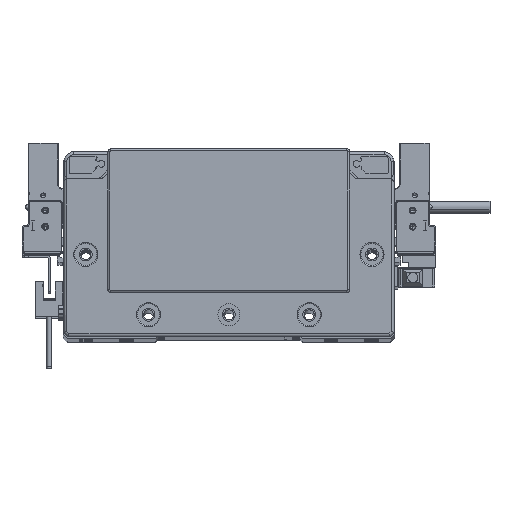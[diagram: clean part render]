
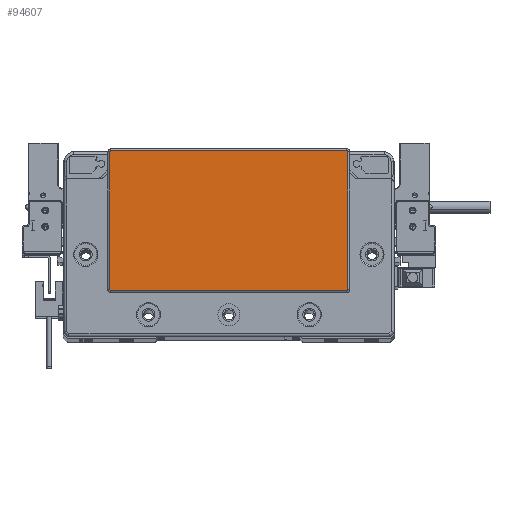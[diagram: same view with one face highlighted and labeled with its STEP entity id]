
A CAD part, top view. The second image highlights one B-rep face of the part: STEP entity #94607.
In plain terms, the highlighted planar face has unit normal (0, 0, 1) as drawn and (0, 0, -1) by its records, which use the part's own axes.
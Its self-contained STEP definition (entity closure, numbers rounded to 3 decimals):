
#270 = LINE ( 'NONE', #9130, #83441 ) ;
#2704 = DIRECTION ( 'NONE',  ( -1., 0., 0. ) ) ;
#2871 = AXIS2_PLACEMENT_3D ( 'NONE', #32860, #71422, #81776 ) ;
#3519 = LINE ( 'NONE', #45178, #89425 ) ;
#5821 = FACE_OUTER_BOUND ( 'NONE', #14637, .T. ) ;
#7203 = AXIS2_PLACEMENT_3D ( 'NONE', #62402, #39974, #38948 ) ;
#8072 = AXIS2_PLACEMENT_3D ( 'NONE', #18843, #24611, #2704 ) ;
#8214 = CARTESIAN_POINT ( 'NONE',  ( -59.25, 45.3, -2. ) ) ;
#9129 = EDGE_CURVE ( 'NONE', #9720, #43144, #74811, .T. ) ;
#9130 = CARTESIAN_POINT ( 'NONE',  ( 58.75, 45.8, -2. ) ) ;
#9720 = VERTEX_POINT ( 'NONE', #47020 ) ;
#12829 = CIRCLE ( 'NONE', #97653, 0.5 ) ;
#14637 = EDGE_LOOP ( 'NONE', ( #45961, #79188, #82193, #80307, #80741, #64395, #99784, #62520 ) ) ;
#18843 = CARTESIAN_POINT ( 'NONE',  ( -58.75, 45.3, -2. ) ) ;
#19050 = CARTESIAN_POINT ( 'NONE',  ( 59.25, 45.3, -2. ) ) ;
#23542 = LINE ( 'NONE', #63634, #102099 ) ;
#24611 = DIRECTION ( 'NONE',  ( 0., 0., -1. ) ) ;
#25947 = CARTESIAN_POINT ( 'NONE',  ( 58.75, 45.3, -2. ) ) ;
#27737 = CARTESIAN_POINT ( 'NONE',  ( -58.75, 45.8, -2. ) ) ;
#29006 = AXIS2_PLACEMENT_3D ( 'NONE', #92792, #39102, #37573 ) ;
#30132 = VECTOR ( 'NONE', #35714, 1000. ) ;
#32860 = CARTESIAN_POINT ( 'NONE',  ( -58.75, -23.3, -2. ) ) ;
#35714 = DIRECTION ( 'NONE',  ( -1., 0., 0. ) ) ;
#36084 = VERTEX_POINT ( 'NONE', #8214 ) ;
#36491 = EDGE_CURVE ( 'NONE', #36084, #97357, #46309, .T. ) ;
#37573 = DIRECTION ( 'NONE',  ( -1., 0., 0. ) ) ;
#38948 = DIRECTION ( 'NONE',  ( -1., 0., 0. ) ) ;
#39102 = DIRECTION ( 'NONE',  ( 0., 0., -1. ) ) ;
#39316 = VERTEX_POINT ( 'NONE', #53048 ) ;
#39974 = DIRECTION ( 'NONE',  ( 0., 0., -1. ) ) ;
#43144 = VERTEX_POINT ( 'NONE', #61395 ) ;
#45178 = CARTESIAN_POINT ( 'NONE',  ( 59.25, -23.3, -2. ) ) ;
#45659 = EDGE_CURVE ( 'NONE', #43144, #60182, #82633, .T. ) ;
#45961 = ORIENTED_EDGE ( 'NONE', *, *, #76391, .T. ) ;
#46309 = CIRCLE ( 'NONE', #8072, 0.5 ) ;
#47020 = CARTESIAN_POINT ( 'NONE',  ( 58.75, -23.8, -2. ) ) ;
#51790 = VERTEX_POINT ( 'NONE', #19050 ) ;
#53048 = CARTESIAN_POINT ( 'NONE',  ( 58.75, 45.8, -2. ) ) ;
#55932 = EDGE_CURVE ( 'NONE', #60182, #36084, #23542, .T. ) ;
#57083 = CIRCLE ( 'NONE', #7203, 0.5 ) ;
#60177 = CARTESIAN_POINT ( 'NONE',  ( -58.75, -23.8, -2. ) ) ;
#60182 = VERTEX_POINT ( 'NONE', #75324 ) ;
#61395 = CARTESIAN_POINT ( 'NONE',  ( -58.75, -23.8, -2. ) ) ;
#62054 = PLANE ( 'NONE',  #29006 ) ;
#62402 = CARTESIAN_POINT ( 'NONE',  ( 58.75, -23.3, -2. ) ) ;
#62520 = ORIENTED_EDGE ( 'NONE', *, *, #76171, .T. ) ;
#63634 = CARTESIAN_POINT ( 'NONE',  ( -59.25, 45.3, -2. ) ) ;
#63797 = DIRECTION ( 'NONE',  ( 1., 0., 0. ) ) ;
#63971 = DIRECTION ( 'NONE',  ( -1., 0., 0. ) ) ;
#64395 = ORIENTED_EDGE ( 'NONE', *, *, #36491, .T. ) ;
#65881 = CARTESIAN_POINT ( 'NONE',  ( 59.25, -23.3, -2. ) ) ;
#70981 = EDGE_CURVE ( 'NONE', #86378, #9720, #57083, .T. ) ;
#71422 = DIRECTION ( 'NONE',  ( 0., 0., -1. ) ) ;
#74811 = LINE ( 'NONE', #60177, #30132 ) ;
#75324 = CARTESIAN_POINT ( 'NONE',  ( -59.25, -23.3, -2. ) ) ;
#76171 = EDGE_CURVE ( 'NONE', #39316, #51790, #12829, .T. ) ;
#76391 = EDGE_CURVE ( 'NONE', #51790, #86378, #3519, .T. ) ;
#78260 = DIRECTION ( 'NONE',  ( 0., 1., 0. ) ) ;
#79188 = ORIENTED_EDGE ( 'NONE', *, *, #70981, .T. ) ;
#80307 = ORIENTED_EDGE ( 'NONE', *, *, #45659, .T. ) ;
#80741 = ORIENTED_EDGE ( 'NONE', *, *, #55932, .T. ) ;
#81776 = DIRECTION ( 'NONE',  ( -1., 0., 0. ) ) ;
#82193 = ORIENTED_EDGE ( 'NONE', *, *, #9129, .T. ) ;
#82633 = CIRCLE ( 'NONE', #2871, 0.5 ) ;
#83441 = VECTOR ( 'NONE', #63797, 1000. ) ;
#86378 = VERTEX_POINT ( 'NONE', #65881 ) ;
#89425 = VECTOR ( 'NONE', #94075, 1000. ) ;
#92466 = EDGE_CURVE ( 'NONE', #97357, #39316, #270, .T. ) ;
#92792 = CARTESIAN_POINT ( 'NONE',  ( 0., 0., -2. ) ) ;
#94075 = DIRECTION ( 'NONE',  ( 0., -1., 0. ) ) ;
#94607 = ADVANCED_FACE ( 'NONE', ( #5821 ), #62054, .T. ) ;
#97357 = VERTEX_POINT ( 'NONE', #27737 ) ;
#97653 = AXIS2_PLACEMENT_3D ( 'NONE', #25947, #97789, #63971 ) ;
#97789 = DIRECTION ( 'NONE',  ( 0., 0., -1. ) ) ;
#99784 = ORIENTED_EDGE ( 'NONE', *, *, #92466, .T. ) ;
#102099 = VECTOR ( 'NONE', #78260, 1000. ) ;
